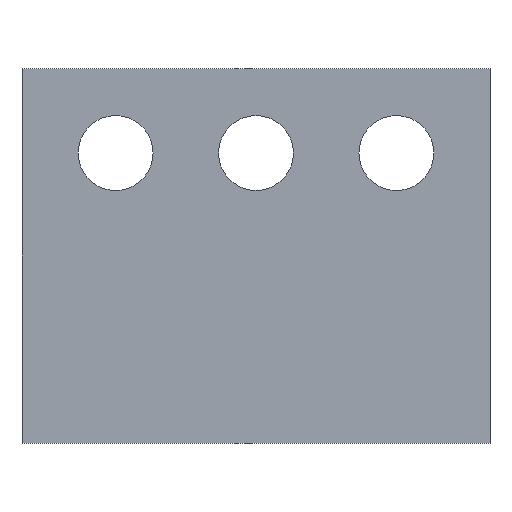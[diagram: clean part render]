
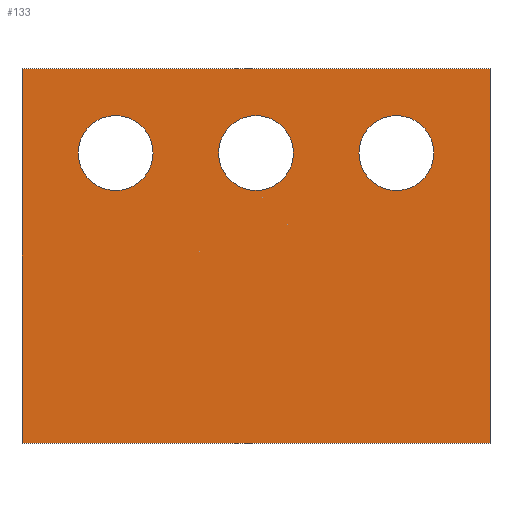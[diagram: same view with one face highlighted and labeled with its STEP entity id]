
A CAD part, front view. The second image highlights one B-rep face of the part: STEP entity #133.
In plain terms, the highlighted planar face has unit normal (0, -1, 0).
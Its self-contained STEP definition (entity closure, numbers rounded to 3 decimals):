
#4 = DIRECTION ( 'NONE',  ( 0., 0., -1. ) ) ;
#7 = VERTEX_POINT ( 'NONE', #377 ) ;
#25 = VERTEX_POINT ( 'NONE', #364 ) ;
#26 = VECTOR ( 'NONE', #123, 1000. ) ;
#47 = AXIS2_PLACEMENT_3D ( 'NONE', #438, #183, #485 ) ;
#56 = LINE ( 'NONE', #304, #599 ) ;
#61 = VERTEX_POINT ( 'NONE', #288 ) ;
#65 = AXIS2_PLACEMENT_3D ( 'NONE', #135, #343, #228 ) ;
#68 = LINE ( 'NONE', #216, #26 ) ;
#75 = AXIS2_PLACEMENT_3D ( 'NONE', #674, #560, #617 ) ;
#86 = CARTESIAN_POINT ( 'NONE',  ( 25., 0., 0. ) ) ;
#88 = FACE_BOUND ( 'NONE', #319, .T. ) ;
#93 = VERTEX_POINT ( 'NONE', #652 ) ;
#98 = CARTESIAN_POINT ( 'NONE',  ( 15., 0., -9. ) ) ;
#106 = EDGE_LOOP ( 'NONE', ( #306, #417, #472, #309 ) ) ;
#110 = AXIS2_PLACEMENT_3D ( 'NONE', #98, #366, #523 ) ;
#111 = VERTEX_POINT ( 'NONE', #86 ) ;
#123 = DIRECTION ( 'NONE',  ( 0., 0., -1. ) ) ;
#133 = ADVANCED_FACE ( 'NONE', ( #88, #187, #136, #392 ), #608, .F. ) ;
#135 = CARTESIAN_POINT ( 'NONE',  ( -15., 0., -9. ) ) ;
#136 = FACE_BOUND ( 'NONE', #510, .T. ) ;
#137 = EDGE_CURVE ( 'NONE', #61, #219, #353, .T. ) ;
#156 = DIRECTION ( 'NONE',  ( 0., 1., 0. ) ) ;
#161 = CARTESIAN_POINT ( 'NONE',  ( 0., 0., -9. ) ) ;
#163 = VERTEX_POINT ( 'NONE', #431 ) ;
#165 = AXIS2_PLACEMENT_3D ( 'NONE', #581, #469, #418 ) ;
#168 = CIRCLE ( 'NONE', #75, 4. ) ;
#173 = ORIENTED_EDGE ( 'NONE', *, *, #410, .F. ) ;
#183 = DIRECTION ( 'NONE',  ( 0., 1., 0. ) ) ;
#187 = FACE_BOUND ( 'NONE', #387, .T. ) ;
#188 = DIRECTION ( 'NONE',  ( -1., 0., 0. ) ) ;
#200 = VERTEX_POINT ( 'NONE', #569 ) ;
#214 = EDGE_CURVE ( 'NONE', #255, #7, #168, .T. ) ;
#216 = CARTESIAN_POINT ( 'NONE',  ( -25., 0., -40. ) ) ;
#219 = VERTEX_POINT ( 'NONE', #447 ) ;
#221 = VECTOR ( 'NONE', #321, 1000. ) ;
#228 = DIRECTION ( 'NONE',  ( 0., 0., 1. ) ) ;
#232 = CIRCLE ( 'NONE', #165, 4. ) ;
#254 = AXIS2_PLACEMENT_3D ( 'NONE', #161, #259, #272 ) ;
#255 = VERTEX_POINT ( 'NONE', #558 ) ;
#259 = DIRECTION ( 'NONE',  ( 0., 1., 0. ) ) ;
#272 = DIRECTION ( 'NONE',  ( 0., 0., 1. ) ) ;
#288 = CARTESIAN_POINT ( 'NONE',  ( -15., 0., -5. ) ) ;
#304 = CARTESIAN_POINT ( 'NONE',  ( 25., 0., -40. ) ) ;
#306 = ORIENTED_EDGE ( 'NONE', *, *, #647, .T. ) ;
#309 = ORIENTED_EDGE ( 'NONE', *, *, #590, .T. ) ;
#311 = EDGE_CURVE ( 'NONE', #7, #255, #520, .T. ) ;
#317 = CIRCLE ( 'NONE', #110, 4. ) ;
#319 = EDGE_LOOP ( 'NONE', ( #173, #610 ) ) ;
#321 = DIRECTION ( 'NONE',  ( -1., 0., 0. ) ) ;
#322 = CARTESIAN_POINT ( 'NONE',  ( -15., 0., -9. ) ) ;
#324 = VERTEX_POINT ( 'NONE', #522 ) ;
#341 = EDGE_CURVE ( 'NONE', #111, #324, #56, .T. ) ;
#343 = DIRECTION ( 'NONE',  ( 0., 1., 0. ) ) ;
#351 = EDGE_CURVE ( 'NONE', #163, #93, #317, .T. ) ;
#353 = CIRCLE ( 'NONE', #65, 4. ) ;
#363 = EDGE_CURVE ( 'NONE', #219, #61, #493, .T. ) ;
#364 = CARTESIAN_POINT ( 'NONE',  ( -25., 0., -40. ) ) ;
#366 = DIRECTION ( 'NONE',  ( 0., -1., 0. ) ) ;
#377 = CARTESIAN_POINT ( 'NONE',  ( 0., 0., -13. ) ) ;
#378 = ORIENTED_EDGE ( 'NONE', *, *, #363, .T. ) ;
#387 = EDGE_LOOP ( 'NONE', ( #378, #409 ) ) ;
#392 = FACE_OUTER_BOUND ( 'NONE', #106, .T. ) ;
#399 = AXIS2_PLACEMENT_3D ( 'NONE', #322, #156, #572 ) ;
#400 = ORIENTED_EDGE ( 'NONE', *, *, #214, .T. ) ;
#409 = ORIENTED_EDGE ( 'NONE', *, *, #137, .T. ) ;
#410 = EDGE_CURVE ( 'NONE', #93, #163, #232, .T. ) ;
#417 = ORIENTED_EDGE ( 'NONE', *, *, #561, .F. ) ;
#418 = DIRECTION ( 'NONE',  ( 0., 0., 1. ) ) ;
#431 = CARTESIAN_POINT ( 'NONE',  ( 15., 0., -5. ) ) ;
#438 = CARTESIAN_POINT ( 'NONE',  ( 25., 0., -40. ) ) ;
#444 = LINE ( 'NONE', #662, #466 ) ;
#447 = CARTESIAN_POINT ( 'NONE',  ( -15., 0., -13. ) ) ;
#466 = VECTOR ( 'NONE', #188, 1000. ) ;
#469 = DIRECTION ( 'NONE',  ( 0., -1., 0. ) ) ;
#472 = ORIENTED_EDGE ( 'NONE', *, *, #341, .F. ) ;
#479 = LINE ( 'NONE', #492, #221 ) ;
#485 = DIRECTION ( 'NONE',  ( 0., 0., 1. ) ) ;
#492 = CARTESIAN_POINT ( 'NONE',  ( 25., 0., 0. ) ) ;
#493 = CIRCLE ( 'NONE', #399, 4. ) ;
#510 = EDGE_LOOP ( 'NONE', ( #621, #400 ) ) ;
#520 = CIRCLE ( 'NONE', #254, 4. ) ;
#522 = CARTESIAN_POINT ( 'NONE',  ( 25., 0., -40. ) ) ;
#523 = DIRECTION ( 'NONE',  ( 0., 0., 1. ) ) ;
#558 = CARTESIAN_POINT ( 'NONE',  ( 0., 0., -5. ) ) ;
#560 = DIRECTION ( 'NONE',  ( 0., 1., 0. ) ) ;
#561 = EDGE_CURVE ( 'NONE', #324, #25, #444, .T. ) ;
#569 = CARTESIAN_POINT ( 'NONE',  ( -25., 0., 0. ) ) ;
#572 = DIRECTION ( 'NONE',  ( 0., 0., 1. ) ) ;
#581 = CARTESIAN_POINT ( 'NONE',  ( 15., 0., -9. ) ) ;
#590 = EDGE_CURVE ( 'NONE', #111, #200, #479, .T. ) ;
#599 = VECTOR ( 'NONE', #4, 1000. ) ;
#608 = PLANE ( 'NONE',  #47 ) ;
#610 = ORIENTED_EDGE ( 'NONE', *, *, #351, .F. ) ;
#617 = DIRECTION ( 'NONE',  ( 0., 0., 1. ) ) ;
#621 = ORIENTED_EDGE ( 'NONE', *, *, #311, .T. ) ;
#647 = EDGE_CURVE ( 'NONE', #200, #25, #68, .T. ) ;
#652 = CARTESIAN_POINT ( 'NONE',  ( 15., 0., -13. ) ) ;
#662 = CARTESIAN_POINT ( 'NONE',  ( 25., 0., -40. ) ) ;
#674 = CARTESIAN_POINT ( 'NONE',  ( 0., 0., -9. ) ) ;
